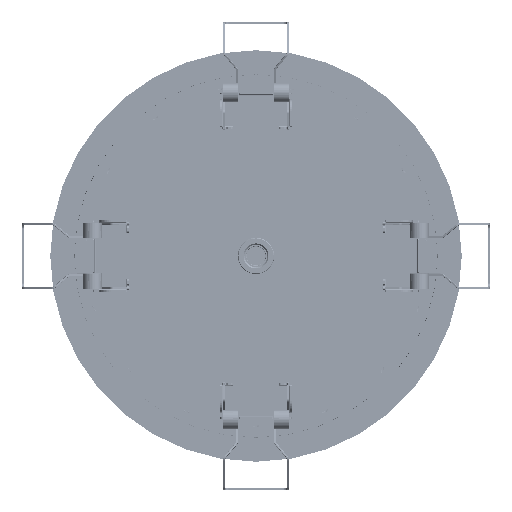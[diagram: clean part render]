
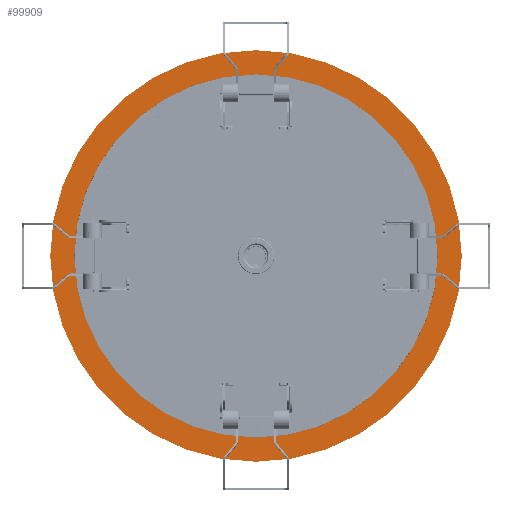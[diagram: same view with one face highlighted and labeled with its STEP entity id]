
A CAD part, top view. The second image highlights one B-rep face of the part: STEP entity #99909.
In plain terms, the highlighted planar face has unit normal (0, 0, 1).
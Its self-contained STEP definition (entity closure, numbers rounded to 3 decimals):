
#553=CARTESIAN_POINT('',(0.,0.,0.));
#554=DIRECTION('',(0.,0.,1.));
#555=DIRECTION('',(-1.,0.,0.));
#556=AXIS2_PLACEMENT_3D('',#553,#554,#555);
#558=CARTESIAN_POINT('',(0.,0.,0.));
#559=DIRECTION('',(0.,0.,1.));
#560=DIRECTION('',(0.,1.,0.));
#561=AXIS2_PLACEMENT_3D('',#558,#559,#560);
#563=CARTESIAN_POINT('',(0.,0.,0.));
#564=DIRECTION('',(0.,0.,1.));
#565=DIRECTION('',(0.,-1.,0.));
#566=AXIS2_PLACEMENT_3D('',#563,#564,#565);
#568=CARTESIAN_POINT('',(0.,0.,0.));
#569=DIRECTION('',(0.,0.,-1.));
#570=DIRECTION('',(1.,0.,0.));
#571=AXIS2_PLACEMENT_3D('',#568,#569,#570);
#573=CARTESIAN_POINT('',(0.,0.,0.));
#574=DIRECTION('',(0.,0.,1.));
#575=DIRECTION('',(1.,0.,0.));
#576=AXIS2_PLACEMENT_3D('',#573,#574,#575);
#85174=CARTESIAN_POINT('',(0.,170.022,0.));
#85176=VERTEX_POINT('',#85174);
#85178=CARTESIAN_POINT('',(0.,-170.022,
0.));
#85180=VERTEX_POINT('',#85178);
#85182=CARTESIAN_POINT('',(-170.022,0.,0.));
#85183=VERTEX_POINT('',#85182);
#99318=CARTESIAN_POINT('',(150.122,0.,
0.));
#99319=CARTESIAN_POINT('',(-150.122,0.,
0.));
#99320=VERTEX_POINT('',#99318);
#99321=VERTEX_POINT('',#99319);
#99891=CARTESIAN_POINT('',(0.,0.,0.));
#99892=DIRECTION('',(0.,0.,-1.));
#99893=DIRECTION('',(-1.,0.,0.));
#99894=AXIS2_PLACEMENT_3D('',#99891,#99892,#99893);
#99895=PLANE('',#99894);
#99897=ORIENTED_EDGE('',*,*,#99896,.F.);
#99899=ORIENTED_EDGE('',*,*,#99898,.F.);
#99901=ORIENTED_EDGE('',*,*,#99900,.F.);
#99902=EDGE_LOOP('',(#99897,#99899,#99901));
#99903=FACE_OUTER_BOUND('',#99902,.F.);
#99905=ORIENTED_EDGE('',*,*,#99904,.F.);
#99906=ORIENTED_EDGE('',*,*,#99881,.T.);
#99907=EDGE_LOOP('',(#99905,#99906));
#99908=FACE_BOUND('',#99907,.F.);
#99909=ADVANCED_FACE('',(#99903,#99908),#99895,.F.);
#557=CIRCLE('',#556,170.022);
#562=CIRCLE('',#561,170.022);
#567=CIRCLE('',#566,170.022);
#572=CIRCLE('',#571,150.122);
#577=CIRCLE('',#576,150.122);
#99881=EDGE_CURVE('',#99320,#99321,#577,.T.);
#99896=EDGE_CURVE('',#85183,#85180,#557,.T.);
#99898=EDGE_CURVE('',#85176,#85183,#562,.T.);
#99900=EDGE_CURVE('',#85180,#85176,#567,.T.);
#99904=EDGE_CURVE('',#99320,#99321,#572,.T.);
